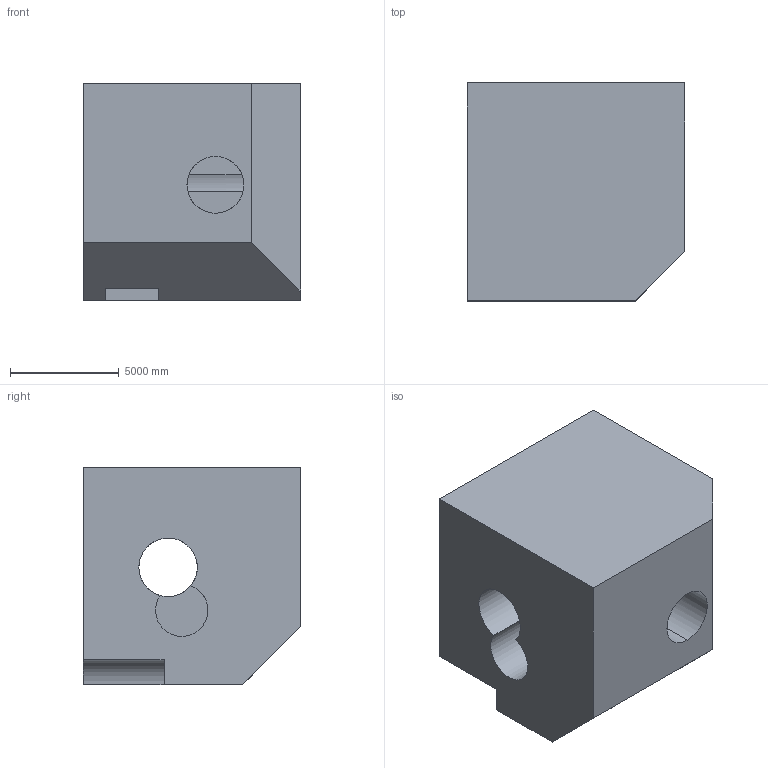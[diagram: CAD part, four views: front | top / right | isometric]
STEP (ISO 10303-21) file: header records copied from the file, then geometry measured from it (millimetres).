
FILE_DESCRIPTION (( 'STEP AP203' ), '1' );
FILE_NAME ('1693.STEP', '2022-08-19T11:46:54', ( 'user' ), ( '' ), 'SwSTEP 2.0', 'SolidWorks 2021', '' );
FILE_SCHEMA (( 'CONFIG_CONTROL_DESIGN' ));
Length unit declared in the file: centimetre
Products named in the file (1): 1693
Bounding box: 10000 x 10000 x 10000 mm (x, y, z)
Volume: 795540368040.4 mm3; surface area: 756656474.6 mm2
Topology: 1 solids, 1 shells, 24 faces, 69 edges, 46 vertices
Faces by surface type: plane 18, cylinder 6
Entity records: 934 total; most frequent: CARTESIAN_POINT 198, ORIENTED_EDGE 138, DIRECTION 135, EDGE_CURVE 69, LINE 49, VECTOR 49, VERTEX_POINT 46, AXIS2_PLACEMENT_3D 43
